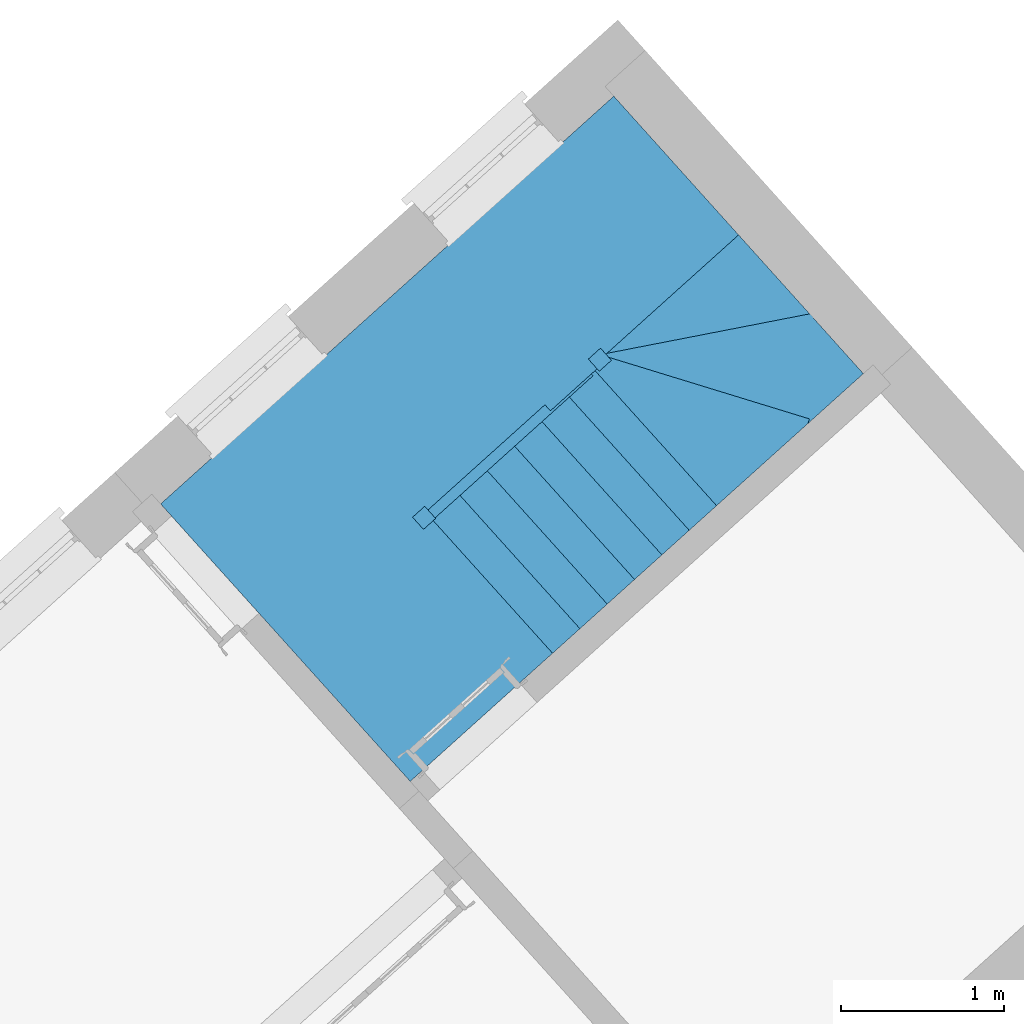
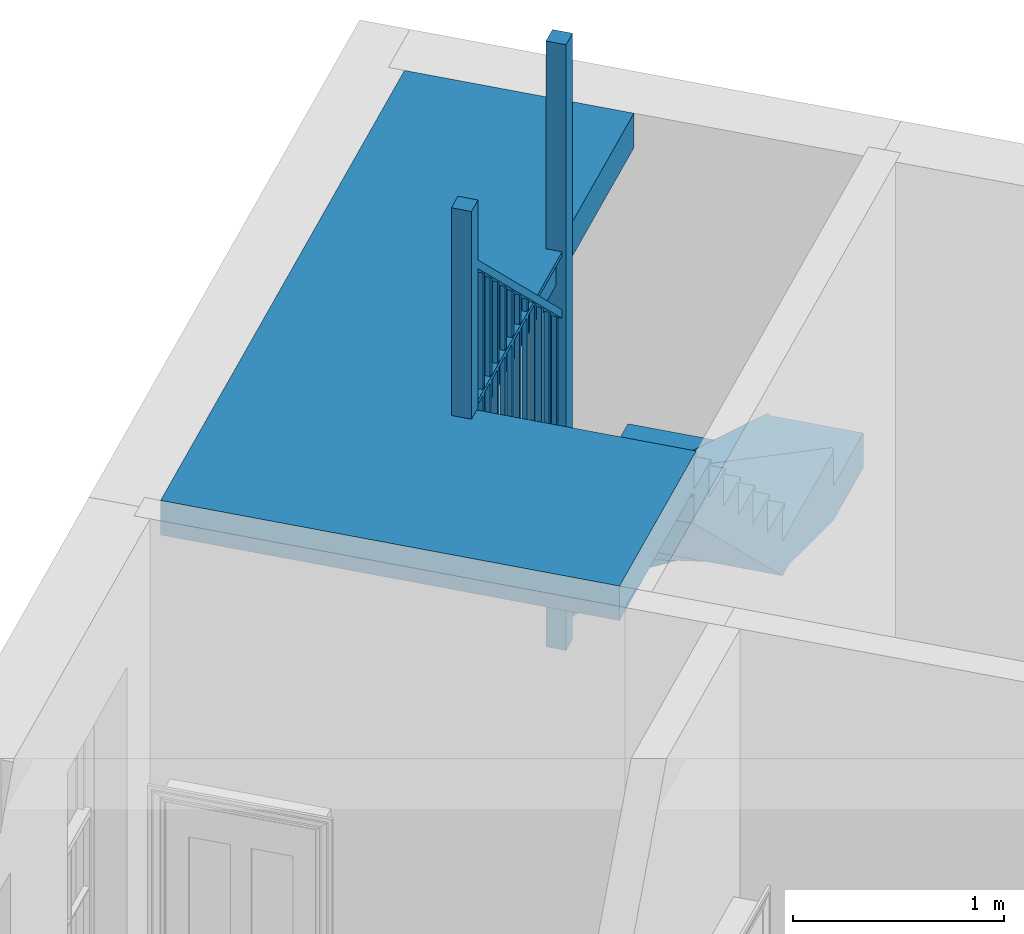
# One storey, part 4 of 4: 1 stair.
"""IFC4 building model written with IfcOpenShell, lengths in metres."""

from ifc_helpers import new_model, si_unit, frame, origin, origin_with_axes, place, context, subcontext, project, spatial, faceted_brep, element, save


model = new_model("IFC4")

# Units and contexts
model_context = context("Model", 3, world=origin_with_axes())
body_context = subcontext(model_context, "Body", "Model", "MODEL_VIEW")
ifc_project = project(units=[si_unit("PLANEANGLEUNIT", "RADIAN"), si_unit("MASSUNIT", "GRAM", prefix="KILO"), si_unit("FORCEUNIT", "NEWTON", prefix="KILO"), si_unit("LENGTHUNIT", "METRE"), si_unit("AREAUNIT", "SQUARE_METRE"), si_unit("VOLUMEUNIT", "CUBIC_METRE")], contexts=[model_context, model_context])

# Sites, building, storey
site_1_placement = place(None, origin_with_axes())
site_1 = spatial("IfcSite", under=ifc_project, at=site_1_placement, Name="Tamar")
site_2_placement = place(site_1_placement, origin_with_axes())
site_2 = spatial("IfcSite", under=site_1, at=site_2_placement, Name="Site plot-6", CompositionType="ELEMENT")
building_placement = place(None, origin_with_axes())
building = spatial("IfcBuilding", under=site_2, at=building_placement, Name="Building plot-6", CompositionType="ELEMENT")
storey_placement = place(None, frame((0.0, 0.0, 28.1), z_axis=(0.0, 0.0, 1.0), x_axis=(1.0, 0.0, 0.0)))
storey = spatial("IfcBuildingStorey", under=building, at=storey_placement, Name="plot-6 1", CompositionType="ELEMENT", Elevation=28.1)

# Stair
stair_placement = place(None, origin())
element("IfcStair", 1, at=stair_placement, inside=storey, Name="Stair", PredefinedType="NOTDEFINED", context=body_context, shape_type="Brep", body=[
    faceted_brep([(236.812, 283.066598, 31.7), (236.048192, 283.91553, 31.7), (234.972724, 282.947899, 31.7), (235.736532, 282.098968, 31.7), (235.736532, 282.098968, 31.5), (234.972724, 282.947899, 31.5), (236.048192, 283.91553, 31.5), (236.812, 283.066598, 31.5)], [[[0, 1, 2, 3]], [[4, 5, 6, 7]], [[7, 6, 1, 0]], [[6, 5, 2, 1]], [[5, 4, 3, 2]], [[4, 7, 0, 3]]]),
    faceted_brep([(235.736532, 282.098968, 31.675), (235.756598, 282.076666, 31.675), (235.736532, 282.098968, 31.7), (236.832066, 283.044297, 31.675), (236.812, 283.066598, 31.675), (236.812, 283.066598, 31.7), (235.756598, 282.076666, 31.7), (236.832066, 283.044297, 31.7)], [[[0, 1, 2]], [[3, 4, 5]], [[1, 6, 2]], [[7, 3, 5]], [[2, 6, 7, 5]], [[0, 2, 5, 4]], [[1, 0, 4, 3]], [[6, 1, 3, 7]]]),
    faceted_brep([(235.732805, 282.028355, 32.9), (235.807145, 282.095241, 32.9), (235.740259, 282.16958, 32.9), (235.66592, 282.102695, 32.9), (235.66592, 282.102695, 31.7), (235.740259, 282.16958, 31.7), (235.807145, 282.095241, 31.7), (235.732805, 282.028355, 31.7)], [[[0, 1, 2, 3]], [[4, 5, 6, 7]], [[7, 6, 1, 0]], [[6, 5, 2, 1]], [[5, 4, 3, 2]], [[4, 7, 0, 3]]]),
    faceted_brep([(235.736532, 282.098968, 31.7), (234.972724, 282.947899, 31.7), (234.123792, 282.18409, 31.7), (234.887601, 281.335159, 31.7), (234.887601, 281.335159, 31.5), (234.123792, 282.18409, 31.5), (234.972724, 282.947899, 31.5), (235.736532, 282.098968, 31.5)], [[[0, 1, 2, 3]], [[4, 5, 6, 7]], [[7, 6, 1, 0]], [[6, 5, 2, 1]], [[5, 4, 3, 2]], [[4, 7, 0, 3]]]),
    faceted_brep([(234.887601, 281.335159, 31.675), (234.907667, 281.312857, 31.675), (234.887601, 281.335159, 31.7), (235.756598, 282.076666, 31.675), (235.736532, 282.098968, 31.675), (235.736532, 282.098968, 31.7), (234.907667, 281.312857, 31.7), (235.756598, 282.076666, 31.7)], [[[0, 1, 2]], [[3, 4, 5]], [[1, 6, 2]], [[7, 3, 5]], [[2, 6, 7, 5]], [[0, 2, 5, 4]], [[1, 0, 4, 3]], [[6, 1, 3, 7]]]),
    faceted_brep([(235.732805, 282.028355, 31.7), (235.807145, 282.095241, 31.7), (235.740259, 282.16958, 31.7), (235.66592, 282.102695, 31.7), (235.66592, 282.102695, 31.2), (235.740259, 282.16958, 31.2), (235.807145, 282.095241, 31.2), (235.732805, 282.028355, 31.2)], [[[0, 1, 2, 3]], [[4, 5, 6, 7]], [[7, 6, 1, 0]], [[6, 5, 2, 1]], [[5, 4, 3, 2]], [[4, 7, 0, 3]]]),
    faceted_brep([(235.736532, 282.098968, 31.5), (234.887601, 281.335159, 31.5), (234.887601, 281.335159, 31.7), (235.736532, 282.098968, 31.7)], [[[0, 1, 2, 3]], [[1, 0, 3, 2]]]),
    faceted_brep([(235.736532, 282.098968, 31.675), (235.715319, 282.077755, 31.675), (235.736532, 282.098968, 31.7), (235.715319, 282.077755, 31.7)], [[[0, 1, 2]], [[1, 0, 2]], [[1, 3, 2]], [[3, 1, 2]]]),
    faceted_brep([(235.807145, 282.095241, 32.9), (235.740259, 282.16958, 32.9), (235.66592, 282.102695, 32.9), (235.732805, 282.028355, 32.9), (235.732805, 282.028355, 31.7), (235.66592, 282.102695, 31.7), (235.740259, 282.16958, 31.7), (235.807145, 282.095241, 31.7)], [[[0, 1, 2, 3]], [[4, 5, 6, 7]], [[7, 6, 1, 0]], [[6, 5, 2, 1]], [[5, 4, 3, 2]], [[4, 7, 0, 3]]]),
    faceted_brep([(235.736532, 282.098968, 31.7), (234.887601, 281.335159, 31.7), (235.65141, 280.486228, 31.7), (236.500341, 281.250036, 31.7), (236.500341, 281.250036, 31.5), (235.65141, 280.486228, 31.5), (234.887601, 281.335159, 31.5), (235.736532, 282.098968, 31.5)], [[[0, 1, 2, 3]], [[4, 5, 6, 7]], [[7, 6, 1, 0]], [[6, 5, 2, 1]], [[5, 4, 3, 2]], [[4, 7, 0, 3]]]),
    faceted_brep([(236.500341, 281.250036, 31.675), (236.522643, 281.270102, 31.675), (236.500341, 281.250036, 31.7), (235.758834, 282.119033, 31.675), (235.736532, 282.098968, 31.675), (235.736532, 282.098968, 31.7), (236.522643, 281.270102, 31.7), (235.758834, 282.119033, 31.7)], [[[0, 1, 2]], [[3, 4, 5]], [[1, 6, 2]], [[7, 3, 5]], [[2, 6, 7, 5]], [[0, 2, 5, 4]], [[1, 0, 4, 3]], [[6, 1, 3, 7]]]),
    faceted_brep([(235.807145, 282.095241, 31.7), (235.740259, 282.16958, 31.7), (235.66592, 282.102695, 31.7), (235.732805, 282.028355, 31.7), (235.732805, 282.028355, 31.2), (235.66592, 282.102695, 31.2), (235.740259, 282.16958, 31.2), (235.807145, 282.095241, 31.2)], [[[0, 1, 2, 3]], [[4, 5, 6, 7]], [[7, 6, 1, 0]], [[6, 5, 2, 1]], [[5, 4, 3, 2]], [[4, 7, 0, 3]]]),
    faceted_brep([(235.736532, 282.098968, 31.5), (236.500341, 281.250036, 31.5), (236.667605, 281.400529, 31.5), (235.903796, 282.24946, 31.5), (235.903796, 282.24946, 31.1), (236.667605, 281.400529, 31.1), (236.500341, 281.250036, 31.3), (235.736532, 282.098968, 31.3)], [[[0, 1, 2, 3]], [[4, 5, 6, 7]], [[7, 6, 1, 0]], [[1, 6, 5, 2]], [[5, 4, 3, 2]], [[3, 4, 7, 0]]]),
    faceted_brep([(236.689907, 281.420594, 31.475), (236.689907, 281.420594, 31.5), (236.667605, 281.400529, 31.475), (236.478039, 281.229971, 31.5), (236.478039, 281.229971, 31.475), (236.500341, 281.250036, 31.475), (236.667605, 281.400529, 31.5), (236.500341, 281.250036, 31.5), (235.906032, 282.291827, 31.5), (235.903796, 282.24946, 31.5), (235.903796, 282.24946, 31.475), (235.906032, 282.291827, 31.475), (235.694165, 282.101204, 31.5), (235.736532, 282.098968, 31.5), (235.736532, 282.098968, 31.475), (235.694165, 282.101204, 31.475)], [[[0, 1, 2]], [[3, 4, 5]], [[2, 1, 6]], [[3, 5, 7]], [[6, 1, 8, 9]], [[2, 6, 9, 10]], [[0, 2, 10, 11]], [[1, 0, 11, 8]], [[9, 8, 12, 13]], [[10, 9, 13, 14]], [[11, 10, 14, 15]], [[8, 11, 15, 12]], [[13, 12, 3, 7]], [[14, 13, 7, 5]], [[15, 14, 5, 4]], [[12, 15, 4, 3]]]),
    faceted_brep([(235.903796, 282.24946, 32.4), (235.885211, 282.232738, 32.4), (235.901933, 282.214154, 32.4), (235.920517, 282.230875, 32.4), (235.920517, 282.230875, 31.5), (235.901933, 282.214154, 31.5), (235.885211, 282.232738, 31.5), (235.903796, 282.24946, 31.5)], [[[0, 1, 2, 3]], [[4, 5, 6, 7]], [[7, 6, 1, 0]], [[6, 5, 2, 1]], [[5, 4, 3, 2]], [[4, 7, 0, 3]]]),
    faceted_brep([(235.820164, 282.174214, 32.5), (235.801579, 282.157492, 32.5), (235.818301, 282.138908, 32.5), (235.836886, 282.155629, 32.5), (235.836886, 282.155629, 31.5), (235.818301, 282.138908, 31.5), (235.801579, 282.157492, 31.5), (235.820164, 282.174214, 31.5)], [[[0, 1, 2, 3]], [[4, 5, 6, 7]], [[7, 6, 1, 0]], [[6, 5, 2, 1]], [[5, 4, 3, 2]], [[4, 7, 0, 3]]]),
    faceted_brep([(235.933894, 282.216007, 32.35), (235.890419, 282.264328, 32.35), (235.890419, 282.264328, 32.4), (235.933894, 282.216007, 32.4), (235.723155, 282.113836, 32.55), (235.766631, 282.065515, 32.55), (235.766631, 282.065515, 32.6), (235.723155, 282.113836, 32.6)], [[[0, 1, 2, 3]], [[4, 5, 6, 7]], [[0, 5, 4, 1]], [[3, 2, 7, 6]], [[0, 3, 6, 5]], [[2, 1, 4, 7]]]),
    faceted_brep([(235.903796, 282.24946, 31.3), (236.667605, 281.400529, 31.3), (236.834868, 281.551021, 31.3), (236.07106, 282.399952, 31.3), (236.07106, 282.399952, 30.9), (236.834868, 281.551021, 30.9), (236.667605, 281.400529, 31.1), (235.903796, 282.24946, 31.1)], [[[0, 1, 2, 3]], [[4, 5, 6, 7]], [[7, 6, 1, 0]], [[1, 6, 5, 2]], [[5, 4, 3, 2]], [[3, 4, 7, 0]]]),
    faceted_brep([(236.85717, 281.571086, 31.275), (236.85717, 281.571086, 31.3), (236.834868, 281.551021, 31.275), (236.645303, 281.380463, 31.3), (236.645303, 281.380463, 31.275), (236.667605, 281.400529, 31.275), (236.834868, 281.551021, 31.3), (236.667605, 281.400529, 31.3), (236.073296, 282.442319, 31.3), (236.07106, 282.399952, 31.3), (236.07106, 282.399952, 31.275), (236.073296, 282.442319, 31.275), (235.861429, 282.251696, 31.3), (235.903796, 282.24946, 31.3), (235.903796, 282.24946, 31.275), (235.861429, 282.251696, 31.275)], [[[0, 1, 2]], [[3, 4, 5]], [[2, 1, 6]], [[3, 5, 7]], [[6, 1, 8, 9]], [[2, 6, 9, 10]], [[0, 2, 10, 11]], [[1, 0, 11, 8]], [[9, 8, 12, 13]], [[10, 9, 13, 14]], [[11, 10, 14, 15]], [[8, 11, 15, 12]], [[13, 12, 3, 7]], [[14, 13, 7, 5]], [[15, 14, 5, 4]], [[12, 15, 4, 3]]]),
    faceted_brep([(236.07106, 282.399952, 32.2), (236.052475, 282.383231, 32.2), (236.069196, 282.364646, 32.2), (236.087781, 282.381367, 32.2), (236.087781, 282.381367, 31.3), (236.069196, 282.364646, 31.3), (236.052475, 282.383231, 31.3), (236.07106, 282.399952, 31.3)], [[[0, 1, 2, 3]], [[4, 5, 6, 7]], [[7, 6, 1, 0]], [[6, 5, 2, 1]], [[5, 4, 3, 2]], [[4, 7, 0, 3]]]),
    faceted_brep([(235.987428, 282.324706, 32.3), (235.968843, 282.307985, 32.3), (235.985564, 282.2894, 32.3), (236.004149, 282.306121, 32.3), (236.004149, 282.306121, 31.3), (235.985564, 282.2894, 31.3), (235.968843, 282.307985, 31.3), (235.987428, 282.324706, 31.3)], [[[0, 1, 2, 3]], [[4, 5, 6, 7]], [[7, 6, 1, 0]], [[6, 5, 2, 1]], [[5, 4, 3, 2]], [[4, 7, 0, 3]]]),
    faceted_brep([(236.101158, 282.366499, 32.15), (236.057683, 282.41482, 32.15), (236.057683, 282.41482, 32.2), (236.101158, 282.366499, 32.2), (235.890419, 282.264328, 32.35), (235.933894, 282.216007, 32.35), (235.933894, 282.216007, 32.4), (235.890419, 282.264328, 32.4)], [[[0, 1, 2, 3]], [[4, 5, 6, 7]], [[0, 5, 4, 1]], [[3, 2, 7, 6]], [[0, 3, 6, 5]], [[2, 1, 4, 7]]]),
    faceted_brep([(236.07106, 282.399952, 31.1), (236.834868, 281.551021, 31.1), (237.002132, 281.701513, 31.1), (236.238323, 282.550444, 31.1), (236.238323, 282.550444, 30.7), (237.002132, 281.701513, 30.7), (236.834868, 281.551021, 30.9), (236.07106, 282.399952, 30.9)], [[[0, 1, 2, 3]], [[4, 5, 6, 7]], [[7, 6, 1, 0]], [[1, 6, 5, 2]], [[5, 4, 3, 2]], [[3, 4, 7, 0]]]),
    faceted_brep([(237.024434, 281.721578, 31.075), (237.024434, 281.721578, 31.1), (237.002132, 281.701513, 31.075), (236.812567, 281.530955, 31.1), (236.812567, 281.530955, 31.075), (236.834868, 281.551021, 31.075), (237.002132, 281.701513, 31.1), (236.834868, 281.551021, 31.1), (236.24056, 282.592811, 31.1), (236.238323, 282.550444, 31.1), (236.238323, 282.550444, 31.075), (236.24056, 282.592811, 31.075), (236.028692, 282.402188, 31.1), (236.07106, 282.399952, 31.1), (236.07106, 282.399952, 31.075), (236.028692, 282.402188, 31.075)], [[[0, 1, 2]], [[3, 4, 5]], [[2, 1, 6]], [[3, 5, 7]], [[6, 1, 8, 9]], [[2, 6, 9, 10]], [[0, 2, 10, 11]], [[1, 0, 11, 8]], [[9, 8, 12, 13]], [[10, 9, 13, 14]], [[11, 10, 14, 15]], [[8, 11, 15, 12]], [[13, 12, 3, 7]], [[14, 13, 7, 5]], [[15, 14, 5, 4]], [[12, 15, 4, 3]]]),
    faceted_brep([(236.238323, 282.550444, 32.0), (236.219739, 282.533723, 32.0), (236.23646, 282.515138, 32.0), (236.255045, 282.531859, 32.0), (236.255045, 282.531859, 31.1), (236.23646, 282.515138, 31.1), (236.219739, 282.533723, 31.1), (236.238323, 282.550444, 31.1)], [[[0, 1, 2, 3]], [[4, 5, 6, 7]], [[7, 6, 1, 0]], [[6, 5, 2, 1]], [[5, 4, 3, 2]], [[4, 7, 0, 3]]]),
    faceted_brep([(236.154692, 282.475198, 32.1), (236.136107, 282.458477, 32.1), (236.152828, 282.439892, 32.1), (236.171413, 282.456613, 32.1), (236.171413, 282.456613, 31.1), (236.152828, 282.439892, 31.1), (236.136107, 282.458477, 31.1), (236.154692, 282.475198, 31.1)], [[[0, 1, 2, 3]], [[4, 5, 6, 7]], [[7, 6, 1, 0]], [[6, 5, 2, 1]], [[5, 4, 3, 2]], [[4, 7, 0, 3]]]),
    faceted_brep([(236.268422, 282.516991, 31.95), (236.224946, 282.565312, 31.95), (236.224946, 282.565312, 32.0), (236.268422, 282.516991, 32.0), (236.057683, 282.41482, 32.15), (236.101158, 282.366499, 32.15), (236.101158, 282.366499, 32.2), (236.057683, 282.41482, 32.2)], [[[0, 1, 2, 3]], [[4, 5, 6, 7]], [[0, 5, 4, 1]], [[3, 2, 7, 6]], [[0, 3, 6, 5]], [[2, 1, 4, 7]]]),
    faceted_brep([(236.238323, 282.550444, 30.9), (237.002132, 281.701513, 30.9), (237.169396, 281.852005, 30.9), (236.405587, 282.700936, 30.9), (236.405587, 282.700936, 30.5), (237.169396, 281.852005, 30.5), (237.002132, 281.701513, 30.7), (236.238323, 282.550444, 30.7)], [[[0, 1, 2, 3]], [[4, 5, 6, 7]], [[7, 6, 1, 0]], [[1, 6, 5, 2]], [[5, 4, 3, 2]], [[3, 4, 7, 0]]]),
    faceted_brep([(237.191698, 281.87207, 30.875), (237.191698, 281.87207, 30.9), (237.169396, 281.852005, 30.875), (236.97983, 281.681447, 30.9), (236.97983, 281.681447, 30.875), (237.002132, 281.701513, 30.875), (237.169396, 281.852005, 30.9), (237.002132, 281.701513, 30.9), (236.407823, 282.743304, 30.9), (236.405587, 282.700936, 30.9), (236.405587, 282.700936, 30.875), (236.407823, 282.743304, 30.875), (236.195956, 282.55268, 30.9), (236.238323, 282.550444, 30.9), (236.238323, 282.550444, 30.875), (236.195956, 282.55268, 30.875)], [[[0, 1, 2]], [[3, 4, 5]], [[2, 1, 6]], [[3, 5, 7]], [[6, 1, 8, 9]], [[2, 6, 9, 10]], [[0, 2, 10, 11]], [[1, 0, 11, 8]], [[9, 8, 12, 13]], [[10, 9, 13, 14]], [[11, 10, 14, 15]], [[8, 11, 15, 12]], [[13, 12, 3, 7]], [[14, 13, 7, 5]], [[15, 14, 5, 4]], [[12, 15, 4, 3]]]),
    faceted_brep([(236.405587, 282.700936, 31.8), (236.387002, 282.684215, 31.8), (236.403724, 282.66563, 31.8), (236.422308, 282.682351, 31.8), (236.422308, 282.682351, 30.9), (236.403724, 282.66563, 30.9), (236.387002, 282.684215, 30.9), (236.405587, 282.700936, 30.9)], [[[0, 1, 2, 3]], [[4, 5, 6, 7]], [[7, 6, 1, 0]], [[6, 5, 2, 1]], [[5, 4, 3, 2]], [[4, 7, 0, 3]]]),
    faceted_brep([(236.321955, 282.62569, 31.9), (236.30337, 282.608969, 31.9), (236.320092, 282.590384, 31.9), (236.338677, 282.607105, 31.9), (236.338677, 282.607105, 30.9), (236.320092, 282.590384, 30.9), (236.30337, 282.608969, 30.9), (236.321955, 282.62569, 30.9)], [[[0, 1, 2, 3]], [[4, 5, 6, 7]], [[7, 6, 1, 0]], [[6, 5, 2, 1]], [[5, 4, 3, 2]], [[4, 7, 0, 3]]]),
    faceted_brep([(236.435685, 282.667483, 31.75), (236.39221, 282.715804, 31.75), (236.39221, 282.715804, 31.8), (236.435685, 282.667483, 31.8), (236.224946, 282.565312, 31.95), (236.268422, 282.516991, 31.95), (236.268422, 282.516991, 32.0), (236.224946, 282.565312, 32.0)], [[[0, 1, 2, 3]], [[4, 5, 6, 7]], [[0, 5, 4, 1]], [[3, 2, 7, 6]], [[0, 3, 6, 5]], [[2, 1, 4, 7]]]),
    faceted_brep([(236.405587, 282.700936, 30.7), (237.169396, 281.852005, 30.7), (237.336659, 282.002497, 30.7), (236.572851, 282.851428, 30.7), (236.572851, 282.851428, 30.3), (237.336659, 282.002497, 30.3), (237.169396, 281.852005, 30.5), (236.405587, 282.700936, 30.5)], [[[0, 1, 2, 3]], [[4, 5, 6, 7]], [[7, 6, 1, 0]], [[1, 6, 5, 2]], [[5, 4, 3, 2]], [[3, 4, 7, 0]]]),
    faceted_brep([(237.358961, 282.022562, 30.675), (237.358961, 282.022562, 30.7), (237.336659, 282.002497, 30.675), (237.147094, 281.831939, 30.7), (237.147094, 281.831939, 30.675), (237.169396, 281.852005, 30.675), (237.336659, 282.002497, 30.7), (237.169396, 281.852005, 30.7), (236.575087, 282.893796, 30.7), (236.572851, 282.851428, 30.7), (236.572851, 282.851428, 30.675), (236.575087, 282.893796, 30.675), (236.36322, 282.703172, 30.7), (236.405587, 282.700936, 30.7), (236.405587, 282.700936, 30.675), (236.36322, 282.703172, 30.675)], [[[0, 1, 2]], [[3, 4, 5]], [[2, 1, 6]], [[3, 5, 7]], [[6, 1, 8, 9]], [[2, 6, 9, 10]], [[0, 2, 10, 11]], [[1, 0, 11, 8]], [[9, 8, 12, 13]], [[10, 9, 13, 14]], [[11, 10, 14, 15]], [[8, 11, 15, 12]], [[13, 12, 3, 7]], [[14, 13, 7, 5]], [[15, 14, 5, 4]], [[12, 15, 4, 3]]]),
    faceted_brep([(236.572851, 282.851428, 31.6), (236.554266, 282.834707, 31.6), (236.570987, 282.816122, 31.6), (236.589572, 282.832843, 31.6), (236.589572, 282.832843, 30.7), (236.570987, 282.816122, 30.7), (236.554266, 282.834707, 30.7), (236.572851, 282.851428, 30.7)], [[[0, 1, 2, 3]], [[4, 5, 6, 7]], [[7, 6, 1, 0]], [[6, 5, 2, 1]], [[5, 4, 3, 2]], [[4, 7, 0, 3]]]),
    faceted_brep([(236.489219, 282.776182, 31.7), (236.470634, 282.759461, 31.7), (236.487355, 282.740876, 31.7), (236.50594, 282.757597, 31.7), (236.50594, 282.757597, 30.7), (236.487355, 282.740876, 30.7), (236.470634, 282.759461, 30.7), (236.489219, 282.776182, 30.7)], [[[0, 1, 2, 3]], [[4, 5, 6, 7]], [[7, 6, 1, 0]], [[6, 5, 2, 1]], [[5, 4, 3, 2]], [[4, 7, 0, 3]]]),
    faceted_brep([(236.602949, 282.817975, 31.55), (236.559474, 282.866296, 31.55), (236.559474, 282.866296, 31.6), (236.602949, 282.817975, 31.6), (236.39221, 282.715804, 31.75), (236.435685, 282.667483, 31.75), (236.435685, 282.667483, 31.8), (236.39221, 282.715804, 31.8)], [[[0, 1, 2, 3]], [[4, 5, 6, 7]], [[0, 5, 4, 1]], [[3, 2, 7, 6]], [[0, 3, 6, 5]], [[2, 1, 4, 7]]]),
    faceted_brep([(236.572851, 282.851428, 30.5), (237.336659, 282.002497, 30.5), (237.503923, 282.152989, 30.5), (236.740114, 283.00192, 30.5), (236.740114, 283.00192, 30.1), (237.503923, 282.152989, 30.1), (237.336659, 282.002497, 30.3), (236.572851, 282.851428, 30.3)], [[[0, 1, 2, 3]], [[4, 5, 6, 7]], [[7, 6, 1, 0]], [[1, 6, 5, 2]], [[5, 4, 3, 2]], [[3, 4, 7, 0]]]),
    faceted_brep([(237.503923, 282.152989, 30.475), (237.526225, 282.173055, 30.475), (237.503923, 282.152989, 30.5), (237.314358, 281.982431, 30.475), (237.336659, 282.002497, 30.475), (237.336659, 282.002497, 30.5), (237.526225, 282.173055, 30.5), (237.314358, 281.982431, 30.5), (236.742351, 283.044288, 30.5), (236.740114, 283.00192, 30.5), (236.740114, 283.00192, 30.475), (236.742351, 283.044288, 30.475), (236.530483, 282.853664, 30.5), (236.572851, 282.851428, 30.5), (236.572851, 282.851428, 30.475), (236.530483, 282.853664, 30.475)], [[[0, 1, 2]], [[3, 4, 5]], [[1, 6, 2]], [[7, 3, 5]], [[2, 6, 8, 9]], [[0, 2, 9, 10]], [[1, 0, 10, 11]], [[6, 1, 11, 8]], [[9, 8, 12, 13]], [[10, 9, 13, 14]], [[11, 10, 14, 15]], [[8, 11, 15, 12]], [[13, 12, 7, 5]], [[14, 13, 5, 4]], [[15, 14, 4, 3]], [[12, 15, 3, 7]]]),
    faceted_brep([(236.740114, 283.00192, 31.4), (236.721529, 282.985199, 31.4), (236.738251, 282.966614, 31.4), (236.756836, 282.983335, 31.4), (236.756836, 282.983335, 30.5), (236.738251, 282.966614, 30.5), (236.721529, 282.985199, 30.5), (236.740114, 283.00192, 30.5)], [[[0, 1, 2, 3]], [[4, 5, 6, 7]], [[7, 6, 1, 0]], [[6, 5, 2, 1]], [[5, 4, 3, 2]], [[4, 7, 0, 3]]]),
    faceted_brep([(236.656483, 282.926674, 31.5), (236.637898, 282.909953, 31.5), (236.654619, 282.891368, 31.5), (236.673204, 282.908089, 31.5), (236.673204, 282.908089, 30.5), (236.654619, 282.891368, 30.5), (236.637898, 282.909953, 30.5), (236.656483, 282.926674, 30.5)], [[[0, 1, 2, 3]], [[4, 5, 6, 7]], [[7, 6, 1, 0]], [[6, 5, 2, 1]], [[5, 4, 3, 2]], [[4, 7, 0, 3]]]),
    faceted_brep([(236.770213, 282.968468, 31.35), (236.726737, 283.016788, 31.35), (236.726737, 283.016788, 31.4), (236.770213, 282.968468, 31.4), (236.559474, 282.866296, 31.55), (236.602949, 282.817975, 31.55), (236.602949, 282.817975, 31.6), (236.559474, 282.866296, 31.6)], [[[0, 1, 2, 3]], [[4, 5, 6, 7]], [[0, 5, 4, 1]], [[3, 2, 7, 6]], [[0, 3, 6, 5]], [[2, 1, 4, 7]]]),
    faceted_brep([(236.740114, 283.00192, 30.3), (237.503923, 282.152989, 30.3), (237.575809, 282.217667, 30.3), (236.812, 283.066598, 30.3), (236.812, 283.066598, 30.1), (237.575809, 282.217667, 30.1), (237.503923, 282.152989, 30.1), (236.740114, 283.00192, 30.1)], [[[0, 1, 2, 3]], [[4, 5, 6, 7]], [[7, 6, 1, 0]], [[6, 5, 2, 1]], [[5, 4, 3, 2]], [[4, 7, 0, 3]]]),
    faceted_brep([(236.791935, 283.0889, 30.275), (236.791935, 283.0889, 30.3), (236.812, 283.066598, 30.275), (236.720049, 283.024222, 30.3), (236.720049, 283.024222, 30.275), (236.740114, 283.00192, 30.275), (236.812, 283.066598, 30.3), (236.740114, 283.00192, 30.3)], [[[0, 1, 2]], [[3, 4, 5]], [[2, 1, 6]], [[3, 5, 7]], [[6, 1, 3, 7]], [[2, 6, 7, 5]], [[0, 2, 5, 4]], [[1, 0, 4, 3]]]),
    faceted_brep([(236.815727, 283.137211, 31.5), (236.741388, 283.070325, 31.5), (236.808273, 282.995986, 31.5), (236.882613, 283.062871, 31.5), (236.882613, 283.062871, 30.3), (236.808273, 282.995986, 30.3), (236.741388, 283.070325, 30.3), (236.815727, 283.137211, 30.3)], [[[0, 1, 2, 3]], [[4, 5, 6, 7]], [[7, 6, 1, 0]], [[6, 5, 2, 1]], [[5, 4, 3, 2]], [[4, 7, 0, 3]]]),
    faceted_brep([(237.575809, 282.217667, 30.3), (238.085168, 282.675952, 30.3), (236.812, 283.066598, 30.3), (236.812, 283.066598, 29.9), (238.085168, 282.675952, 29.9), (237.575809, 282.217667, 30.1)], [[[0, 1, 2]], [[3, 4, 5]], [[0, 5, 4, 1]], [[4, 3, 2, 1]], [[2, 3, 5, 0]]]),
    faceted_brep([(238.085168, 282.675952, 30.275), (238.093968, 282.704633, 30.275), (238.085168, 282.675952, 30.3), (236.8208, 283.095279, 30.275), (236.812, 283.066598, 30.275), (236.812, 283.066598, 30.3), (238.093968, 282.704633, 30.3), (236.8208, 283.095279, 30.3)], [[[0, 1, 2]], [[3, 4, 5]], [[1, 6, 2]], [[7, 3, 5]], [[2, 6, 7, 5]], [[0, 2, 5, 4]], [[1, 0, 4, 3]], [[6, 1, 3, 7]]]),
    faceted_brep([(238.085168, 282.675952, 30.1), (238.42474, 282.981476, 30.1), (238.119217, 283.321048, 30.1), (236.812, 283.066598, 30.1), (236.812, 283.066598, 29.7), (238.119217, 283.321048, 29.7), (238.42474, 282.981476, 29.9), (238.085168, 282.675952, 29.9)], [[[0, 1, 2, 3]], [[4, 5, 6, 7]], [[7, 6, 1, 0]], [[1, 6, 5, 2]], [[5, 4, 3, 2]], [[3, 4, 7, 0]]]),
    faceted_brep([(238.119217, 283.321048, 30.075), (238.113485, 283.350496, 30.075), (238.119217, 283.321048, 30.1), (236.806269, 283.096046, 30.075), (236.812, 283.066598, 30.075), (236.812, 283.066598, 30.1), (238.113485, 283.350496, 30.1), (236.806269, 283.096046, 30.1)], [[[0, 1, 2]], [[3, 4, 5]], [[1, 6, 2]], [[7, 3, 5]], [[2, 6, 7, 5]], [[0, 2, 5, 4]], [[1, 0, 4, 3]], [[6, 1, 3, 7]]]),
    faceted_brep([(238.119217, 283.321048, 29.9), (237.660932, 283.830407, 29.9), (236.812, 283.066598, 29.9), (236.812, 283.066598, 29.5), (237.660932, 283.830407, 29.5), (238.119217, 283.321048, 29.7)], [[[0, 1, 2]], [[3, 4, 5]], [[0, 5, 4, 1]], [[4, 3, 2, 1]], [[2, 3, 5, 0]]]),
    faceted_brep([(237.640866, 283.852709, 29.875), (237.640866, 283.852709, 29.9), (237.660932, 283.830407, 29.875), (236.791935, 283.0889, 29.9), (236.791935, 283.0889, 29.875), (236.812, 283.066598, 29.875), (237.660932, 283.830407, 29.9), (236.812, 283.066598, 29.9)], [[[0, 1, 2]], [[3, 4, 5]], [[2, 1, 6]], [[3, 5, 7]], [[6, 1, 3, 7]], [[2, 6, 7, 5]], [[0, 2, 5, 4]], [[1, 0, 4, 3]]]),
    faceted_brep([(236.815727, 283.137211, 30.3), (236.741388, 283.070325, 30.3), (236.808273, 282.995986, 30.3), (236.882613, 283.062871, 30.3), (236.882613, 283.062871, 29.4), (236.808273, 282.995986, 29.4), (236.741388, 283.070325, 29.4), (236.815727, 283.137211, 29.4)], [[[0, 1, 2, 3]], [[4, 5, 6, 7]], [[7, 6, 1, 0]], [[6, 5, 2, 1]], [[5, 4, 3, 2]], [[4, 7, 0, 3]]]),
    faceted_brep([(236.812, 283.066598, 29.5), (237.660932, 283.830407, 29.5), (237.660932, 283.830407, 29.7), (236.812, 283.066598, 29.7)], [[[0, 1, 2, 3]], [[1, 0, 3, 2]]]),
    faceted_brep([(236.834299, 283.086667, 29.675), (236.834299, 283.086667, 29.7), (236.812, 283.066598, 29.675), (236.812, 283.066598, 29.7)], [[[0, 1, 2]], [[1, 0, 2]], [[2, 1, 3]], [[1, 2, 3]]]),
    faceted_brep([(236.741388, 283.070325, 32.9), (236.808273, 282.995986, 32.9), (236.882613, 283.062871, 32.9), (236.815727, 283.137211, 32.9), (236.815727, 283.137211, 31.7), (236.882613, 283.062871, 31.7), (236.808273, 282.995986, 31.7), (236.741388, 283.070325, 31.7)], [[[0, 1, 2, 3]], [[4, 5, 6, 7]], [[7, 6, 1, 0]], [[6, 5, 2, 1]], [[5, 4, 3, 2]], [[4, 7, 0, 3]]]),
    faceted_brep([(236.812, 283.066598, 31.7), (237.660932, 283.830407, 31.7), (236.897123, 284.679338, 31.7), (236.048192, 283.91553, 31.7), (236.048192, 283.91553, 31.5), (236.897123, 284.679338, 31.5), (237.660932, 283.830407, 31.5), (236.812, 283.066598, 31.5)], [[[0, 1, 2, 3]], [[4, 5, 6, 7]], [[7, 6, 1, 0]], [[6, 5, 2, 1]], [[5, 4, 3, 2]], [[4, 7, 0, 3]]]),
    faceted_brep([(236.02589, 283.895464, 31.675), (236.02589, 283.895464, 31.7), (236.048192, 283.91553, 31.675), (236.789699, 283.046533, 31.7), (236.789699, 283.046533, 31.675), (236.812, 283.066598, 31.675), (236.048192, 283.91553, 31.7), (236.812, 283.066598, 31.7)], [[[0, 1, 2]], [[3, 4, 5]], [[2, 1, 6]], [[3, 5, 7]], [[6, 1, 3, 7]], [[2, 6, 7, 5]], [[0, 2, 5, 4]], [[1, 0, 4, 3]]]),
    faceted_brep([(236.741388, 283.070325, 31.7), (236.808273, 282.995986, 31.7), (236.882613, 283.062871, 31.7), (236.815727, 283.137211, 31.7), (236.815727, 283.137211, 31.2), (236.882613, 283.062871, 31.2), (236.808273, 282.995986, 31.2), (236.741388, 283.070325, 31.2)], [[[0, 1, 2, 3]], [[4, 5, 6, 7]], [[7, 6, 1, 0]], [[6, 5, 2, 1]], [[5, 4, 3, 2]], [[4, 7, 0, 3]]]),
])

save(model, "model.ifc")
